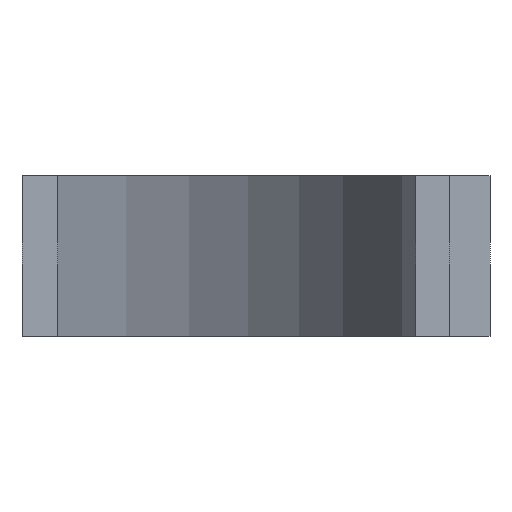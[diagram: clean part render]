
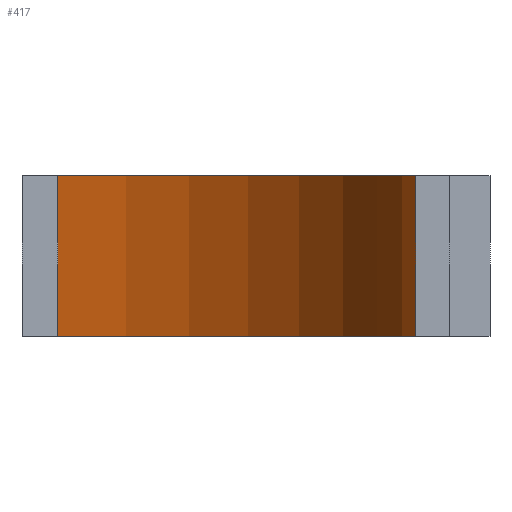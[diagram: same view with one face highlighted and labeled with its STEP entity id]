
A CAD part, front view. The second image highlights one B-rep face of the part: STEP entity #417.
In plain terms, the highlighted cylindrical face has radius 74.701 mm (diameter 149.403 mm), a partial arc.
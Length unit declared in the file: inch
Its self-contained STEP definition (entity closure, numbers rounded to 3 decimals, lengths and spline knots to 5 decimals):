
#1 = DIRECTION ( 'NONE',  ( -1., 0., 0. ) ) ;
#2 = ORIENTED_EDGE ( 'NONE', *, *, #376, .T. ) ;
#5 = DIRECTION ( 'NONE',  ( -1., 0., 0. ) ) ;
#59 = VERTEX_POINT ( 'NONE', #251 ) ;
#86 = CARTESIAN_POINT ( 'NONE',  ( -0.465, 0.209, 0. ) ) ;
#104 = VERTEX_POINT ( 'NONE', #86 ) ;
#105 = AXIS2_PLACEMENT_3D ( 'NONE', #141, #232, #5 ) ;
#136 = VERTEX_POINT ( 'NONE', #148 ) ;
#141 = CARTESIAN_POINT ( 'NONE',  ( -3.38377, -0.15189, 0. ) ) ;
#142 = VERTEX_POINT ( 'NONE', #248 ) ;
#148 = CARTESIAN_POINT ( 'NONE',  ( -2.702, 2.709, 0. ) ) ;
#163 = AXIS2_PLACEMENT_3D ( 'NONE', #254, #301, #1 ) ;
#169 = CYLINDRICAL_SURFACE ( 'NONE', #171, 2.941 ) ;
#171 = AXIS2_PLACEMENT_3D ( 'NONE', #238, #408, #336 ) ;
#192 = CARTESIAN_POINT ( 'NONE',  ( -2.702, 2.709, -1. ) ) ;
#196 = VECTOR ( 'NONE', #373, 39.37008 ) ;
#200 = DIRECTION ( 'NONE',  ( 0., 0., 1. ) ) ;
#211 = EDGE_CURVE ( 'NONE', #59, #136, #319, .T. ) ;
#215 = CIRCLE ( 'NONE', #105, 2.941 ) ;
#232 = DIRECTION ( 'NONE',  ( 0., 0., -1. ) ) ;
#237 = EDGE_LOOP ( 'NONE', ( #263, #273, #335, #2 ) ) ;
#238 = CARTESIAN_POINT ( 'NONE',  ( -3.38377, -0.15189, -1. ) ) ;
#247 = VECTOR ( 'NONE', #200, 39.37008 ) ;
#248 = CARTESIAN_POINT ( 'NONE',  ( -0.465, 0.209, -1. ) ) ;
#251 = CARTESIAN_POINT ( 'NONE',  ( -2.702, 2.709, -1. ) ) ;
#254 = CARTESIAN_POINT ( 'NONE',  ( -3.38377, -0.15189, -1. ) ) ;
#263 = ORIENTED_EDGE ( 'NONE', *, *, #368, .F. ) ;
#273 = ORIENTED_EDGE ( 'NONE', *, *, #211, .F. ) ;
#301 = DIRECTION ( 'NONE',  ( 0., 0., -1. ) ) ;
#317 = CIRCLE ( 'NONE', #163, 2.941 ) ;
#319 = LINE ( 'NONE', #192, #247 ) ;
#335 = ORIENTED_EDGE ( 'NONE', *, *, #354, .T. ) ;
#336 = DIRECTION ( 'NONE',  ( 1., 0., 0. ) ) ;
#342 = FACE_OUTER_BOUND ( 'NONE', #237, .T. ) ;
#354 = EDGE_CURVE ( 'NONE', #59, #142, #317, .T. ) ;
#368 = EDGE_CURVE ( 'NONE', #136, #104, #215, .T. ) ;
#373 = DIRECTION ( 'NONE',  ( 0., 0., 1. ) ) ;
#376 = EDGE_CURVE ( 'NONE', #142, #104, #413, .T. ) ;
#408 = DIRECTION ( 'NONE',  ( 0., 0., 1. ) ) ;
#413 = LINE ( 'NONE', #438, #196 ) ;
#417 = ADVANCED_FACE ( 'NONE', ( #342 ), #169, .F. ) ;
#438 = CARTESIAN_POINT ( 'NONE',  ( -0.465, 0.209, -1. ) ) ;
